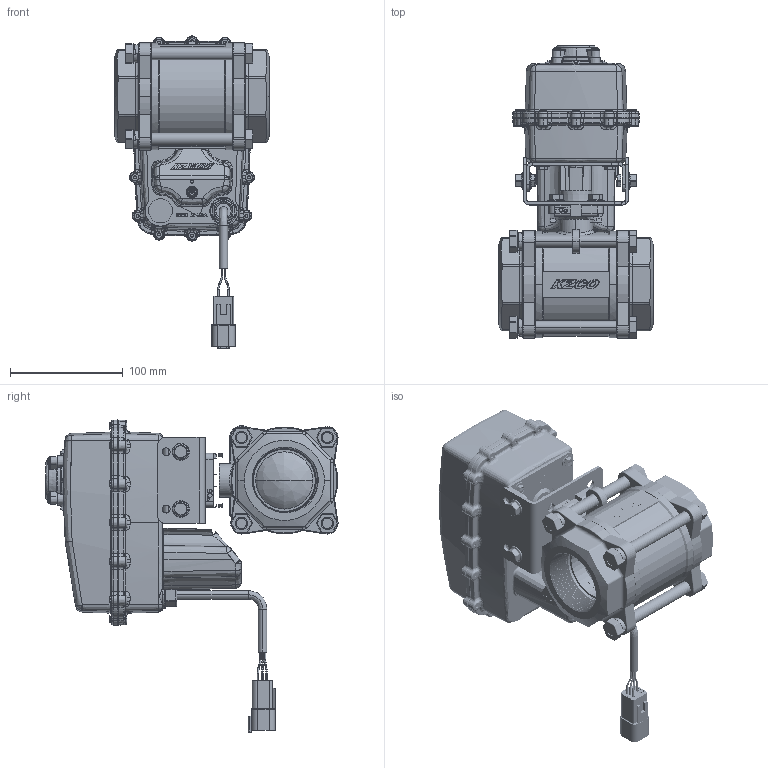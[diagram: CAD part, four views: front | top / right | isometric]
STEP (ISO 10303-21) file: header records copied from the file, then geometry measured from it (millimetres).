
FILE_DESCRIPTION (( 'STEP AP203' ), '1' );
FILE_NAME ('YE-VKG-PH_Valve.STEP', '2014-07-03T20:51:03', ( '' ), ( '' ), 'SwSTEP 2.0', 'SolidWorks 2014', '' );
FILE_SCHEMA (( 'CONFIG_CONTROL_DESIGN' ));
Length unit declared in the file: inch
Products named in the file (1): YE-VKG-PH_Valve
Bounding box: 137.27 x 259.85 x 277.18 mm (x, y, z)
Surface area: 347565 mm2 (no closed solid volume)
Topology: 0 solids, 315 shells, 2808 faces, 12064 edges, 9409 vertices
Faces by surface type: bspline 1167, plane 693, cylinder 482, cone 415, torus 39, sphere 12
Entity records: 203095 total; most frequent: CARTESIAN_POINT 120528, ORIENTED_EDGE 17215, DIRECTION 13079, EDGE_CURVE 12016, VERTEX_POINT 9397, AXIS2_PLACEMENT_3D 4657, B_SPLINE_CURVE_WITH_KNOTS 4441, LINE 3765
